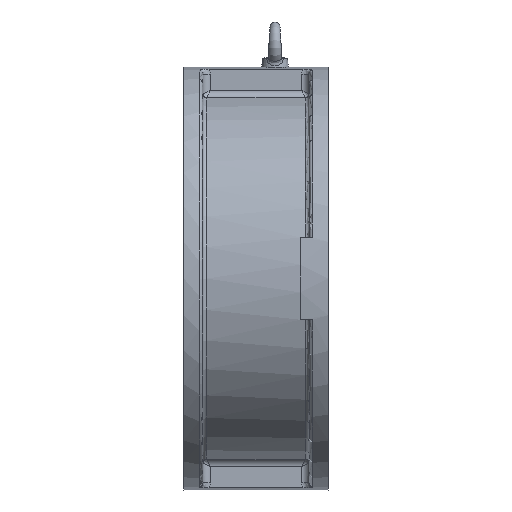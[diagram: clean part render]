
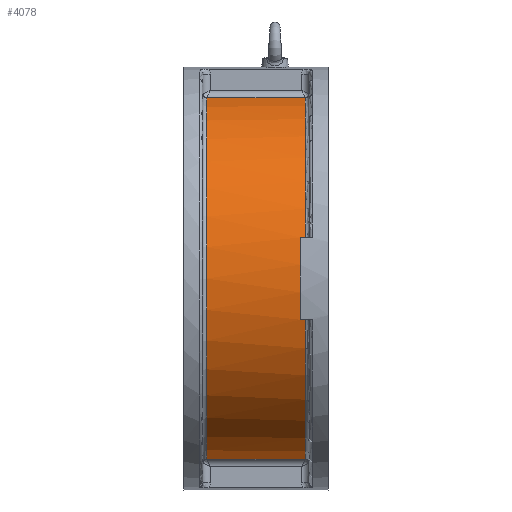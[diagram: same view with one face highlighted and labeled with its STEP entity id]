
A CAD part, left-side view. The second image highlights one B-rep face of the part: STEP entity #4078.
In plain terms, the highlighted cylindrical face has radius 145.5 mm (diameter 291 mm), a partial arc.
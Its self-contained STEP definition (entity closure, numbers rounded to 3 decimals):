
#218 = CARTESIAN_POINT ( 'NONE',  ( 3111.809, 1507.102, 142.809 ) ) ;
#293 = CARTESIAN_POINT ( 'NONE',  ( 3139.661, 1429.157, 0. ) ) ;
#701 = ORIENTED_EDGE ( 'NONE', *, *, #1759, .T. ) ;
#726 = LINE ( 'NONE', #2707, #6845 ) ;
#766 = CARTESIAN_POINT ( 'NONE',  ( 3111.624, 1429.176, 142.773 ) ) ;
#790 = CARTESIAN_POINT ( 'NONE',  ( 3111.809, 1429.213, -142.809 ) ) ;
#821 = ORIENTED_EDGE ( 'NONE', *, *, #2072, .T. ) ;
#825 = CIRCLE ( 'NONE', #2193, 145.5 ) ;
#927 = LINE ( 'NONE', #1488, #2688 ) ;
#938 = VERTEX_POINT ( 'NONE', #5761 ) ;
#966 = DIRECTION ( 'NONE',  ( 0., 1., 0. ) ) ;
#1059 = DIRECTION ( 'NONE',  ( 0., 1., 0. ) ) ;
#1163 = VERTEX_POINT ( 'NONE', #3681 ) ;
#1313 = EDGE_CURVE ( 'NONE', #5236, #2480, #2307, .T. ) ;
#1336 = CARTESIAN_POINT ( 'NONE',  ( 3111.436, 1429.157, -142.736 ) ) ;
#1356 = AXIS2_PLACEMENT_3D ( 'NONE', #2491, #6057, #4291 ) ;
#1359 = ORIENTED_EDGE ( 'NONE', *, *, #6839, .T. ) ;
#1386 = ORIENTED_EDGE ( 'NONE', *, *, #5298, .T. ) ;
#1403 = CARTESIAN_POINT ( 'NONE',  ( 3111.436, 1507.157, 142.736 ) ) ;
#1446 = AXIS2_PLACEMENT_3D ( 'NONE', #4645, #6424, #3504 ) ;
#1488 = CARTESIAN_POINT ( 'NONE',  ( 3111.809, 1533.391, -142.809 ) ) ;
#1651 = VERTEX_POINT ( 'NONE', #3297 ) ;
#1732 = EDGE_CURVE ( 'NONE', #6234, #3260, #825, .T. ) ;
#1759 = EDGE_CURVE ( 'NONE', #1651, #2286, #726, .T. ) ;
#1779 = ORIENTED_EDGE ( 'NONE', *, *, #2232, .F. ) ;
#1883 = FACE_OUTER_BOUND ( 'NONE', #4651, .T. ) ;
#1940 = VECTOR ( 'NONE', #1059, 1000. ) ;
#1998 = CARTESIAN_POINT ( 'NONE',  ( 3111.247, 1507.157, 142.699 ) ) ;
#2047 = CARTESIAN_POINT ( 'NONE',  ( 3111.809, 1507.102, -142.809 ) ) ;
#2072 = EDGE_CURVE ( 'NONE', #4235, #4490, #5822, .T. ) ;
#2188 = DIRECTION ( 'NONE',  ( 0., -1., 0. ) ) ;
#2193 = AXIS2_PLACEMENT_3D ( 'NONE', #293, #3861, #5644 ) ;
#2232 = EDGE_CURVE ( 'NONE', #4235, #938, #2861, .T. ) ;
#2286 = VERTEX_POINT ( 'NONE', #2849 ) ;
#2298 = CARTESIAN_POINT ( 'NONE',  ( 3139.661, 1533.391, 0. ) ) ;
#2307 = CIRCLE ( 'NONE', #6150, 145.5 ) ;
#2405 = EDGE_CURVE ( 'NONE', #5236, #5512, #5546, .T. ) ;
#2480 = VERTEX_POINT ( 'NONE', #3341 ) ;
#2491 = CARTESIAN_POINT ( 'NONE',  ( 3139.661, 1433.157, 0. ) ) ;
#2558 = ORIENTED_EDGE ( 'NONE', *, *, #1732, .T. ) ;
#2666 = DIRECTION ( 'NONE',  ( 0., 1., 0. ) ) ;
#2688 = VECTOR ( 'NONE', #2188, 1000. ) ;
#2707 = CARTESIAN_POINT ( 'NONE',  ( 3111.809, 1533.391, 142.809 ) ) ;
#2727 = EDGE_CURVE ( 'NONE', #3260, #6576, #5732, .T. ) ;
#2741 = CARTESIAN_POINT ( 'NONE',  ( 2997.837, 1413.157, -32.5 ) ) ;
#2763 = CARTESIAN_POINT ( 'NONE',  ( 3139.661, 1507.157, 0. ) ) ;
#2806 = CARTESIAN_POINT ( 'NONE',  ( 2997.837, 1429.157, 32.5 ) ) ;
#2849 = CARTESIAN_POINT ( 'NONE',  ( 3111.809, 1507.102, 142.809 ) ) ;
#2861 = LINE ( 'NONE', #4006, #1940 ) ;
#3024 = B_SPLINE_CURVE_WITH_KNOTS ( 'NONE', 3,
 ( #6105, #4316, #766, #5395 ),
 .UNSPECIFIED., .F., .F.,
 ( 4, 4 ),
 ( 0., 0.001 ),
 .UNSPECIFIED. ) ;
#3260 = VERTEX_POINT ( 'NONE', #7632 ) ;
#3297 = CARTESIAN_POINT ( 'NONE',  ( 3111.809, 1429.213, 142.809 ) ) ;
#3326 = DIRECTION ( 'NONE',  ( 0., 0., 1. ) ) ;
#3341 = CARTESIAN_POINT ( 'NONE',  ( 3111.247, 1507.157, 142.699 ) ) ;
#3414 = VECTOR ( 'NONE', #2666, 1000. ) ;
#3504 = DIRECTION ( 'NONE',  ( 0., 0., 1. ) ) ;
#3681 = CARTESIAN_POINT ( 'NONE',  ( 3111.809, 1429.213, -142.809 ) ) ;
#3853 = CARTESIAN_POINT ( 'NONE',  ( 3111.436, 1507.157, -142.736 ) ) ;
#3861 = DIRECTION ( 'NONE',  ( 0., 1., 0. ) ) ;
#3899 = EDGE_CURVE ( 'NONE', #5512, #1163, #927, .T. ) ;
#4006 = CARTESIAN_POINT ( 'NONE',  ( 2997.837, 1413.157, 32.5 ) ) ;
#4029 = ORIENTED_EDGE ( 'NONE', *, *, #5485, .T. ) ;
#4078 = ADVANCED_FACE ( 'NONE', ( #1883 ), #4396, .T. ) ;
#4235 = VERTEX_POINT ( 'NONE', #2806 ) ;
#4281 = CARTESIAN_POINT ( 'NONE',  ( 3111.247, 1429.157, -142.699 ) ) ;
#4291 = DIRECTION ( 'NONE',  ( 0., 0., 1. ) ) ;
#4316 = CARTESIAN_POINT ( 'NONE',  ( 3111.436, 1429.157, 142.736 ) ) ;
#4348 = CARTESIAN_POINT ( 'NONE',  ( 3111.624, 1507.139, 142.773 ) ) ;
#4396 = CYLINDRICAL_SURFACE ( 'NONE', #4972, 145.5 ) ;
#4490 = VERTEX_POINT ( 'NONE', #6094 ) ;
#4503 = CARTESIAN_POINT ( 'NONE',  ( 3111.247, 1507.157, -142.699 ) ) ;
#4510 = CARTESIAN_POINT ( 'NONE',  ( 3111.809, 1507.102, -142.809 ) ) ;
#4645 = CARTESIAN_POINT ( 'NONE',  ( 3139.661, 1429.157, 0. ) ) ;
#4651 = EDGE_LOOP ( 'NONE', ( #1386, #1779, #821, #1359, #701, #4029, #6884, #7427, #7570, #6101, #2558, #7041 ) ) ;
#4671 = DIRECTION ( 'NONE',  ( 0., 0., 1. ) ) ;
#4972 = AXIS2_PLACEMENT_3D ( 'NONE', #2298, #6422, #4671 ) ;
#5049 = CARTESIAN_POINT ( 'NONE',  ( 3111.624, 1507.139, -142.773 ) ) ;
#5106 = EDGE_CURVE ( 'NONE', #1163, #6234, #5119, .T. ) ;
#5119 = B_SPLINE_CURVE_WITH_KNOTS ( 'NONE', 3,
 ( #790, #7187, #1336, #4281 ),
 .UNSPECIFIED., .F., .F.,
 ( 4, 4 ),
 ( 0., 0.001 ),
 .UNSPECIFIED. ) ;
#5236 = VERTEX_POINT ( 'NONE', #6227 ) ;
#5298 = EDGE_CURVE ( 'NONE', #6576, #938, #7069, .T. ) ;
#5395 = CARTESIAN_POINT ( 'NONE',  ( 3111.809, 1429.213, 142.809 ) ) ;
#5485 = EDGE_CURVE ( 'NONE', #2286, #2480, #6836, .T. ) ;
#5512 = VERTEX_POINT ( 'NONE', #4510 ) ;
#5546 = B_SPLINE_CURVE_WITH_KNOTS ( 'NONE', 3,
 ( #4503, #3853, #5049, #2047 ),
 .UNSPECIFIED., .F., .F.,
 ( 4, 4 ),
 ( 0., 0.001 ),
 .UNSPECIFIED. ) ;
#5644 = DIRECTION ( 'NONE',  ( 0., 0., 1. ) ) ;
#5732 = LINE ( 'NONE', #2741, #3414 ) ;
#5761 = CARTESIAN_POINT ( 'NONE',  ( 2997.837, 1433.157, 32.5 ) ) ;
#5822 = CIRCLE ( 'NONE', #1446, 145.5 ) ;
#6057 = DIRECTION ( 'NONE',  ( 0., 1., 0. ) ) ;
#6094 = CARTESIAN_POINT ( 'NONE',  ( 3111.247, 1429.157, 142.699 ) ) ;
#6101 = ORIENTED_EDGE ( 'NONE', *, *, #5106, .T. ) ;
#6105 = CARTESIAN_POINT ( 'NONE',  ( 3111.247, 1429.157, 142.699 ) ) ;
#6150 = AXIS2_PLACEMENT_3D ( 'NONE', #2763, #966, #3326 ) ;
#6188 = CARTESIAN_POINT ( 'NONE',  ( 2997.837, 1433.157, -32.5 ) ) ;
#6227 = CARTESIAN_POINT ( 'NONE',  ( 3111.247, 1507.157, -142.699 ) ) ;
#6234 = VERTEX_POINT ( 'NONE', #6508 ) ;
#6422 = DIRECTION ( 'NONE',  ( 0., 1., 0. ) ) ;
#6424 = DIRECTION ( 'NONE',  ( 0., 1., 0. ) ) ;
#6508 = CARTESIAN_POINT ( 'NONE',  ( 3111.247, 1429.157, -142.699 ) ) ;
#6576 = VERTEX_POINT ( 'NONE', #6188 ) ;
#6836 = B_SPLINE_CURVE_WITH_KNOTS ( 'NONE', 3,
 ( #218, #4348, #1403, #1998 ),
 .UNSPECIFIED., .F., .F.,
 ( 4, 4 ),
 ( 0., 0.001 ),
 .UNSPECIFIED. ) ;
#6839 = EDGE_CURVE ( 'NONE', #4490, #1651, #3024, .T. ) ;
#6845 = VECTOR ( 'NONE', #7296, 1000. ) ;
#6884 = ORIENTED_EDGE ( 'NONE', *, *, #1313, .F. ) ;
#7041 = ORIENTED_EDGE ( 'NONE', *, *, #2727, .T. ) ;
#7069 = CIRCLE ( 'NONE', #1356, 145.5 ) ;
#7187 = CARTESIAN_POINT ( 'NONE',  ( 3111.624, 1429.176, -142.773 ) ) ;
#7296 = DIRECTION ( 'NONE',  ( 0., 1., 0. ) ) ;
#7427 = ORIENTED_EDGE ( 'NONE', *, *, #2405, .T. ) ;
#7570 = ORIENTED_EDGE ( 'NONE', *, *, #3899, .T. ) ;
#7632 = CARTESIAN_POINT ( 'NONE',  ( 2997.837, 1429.157, -32.5 ) ) ;
